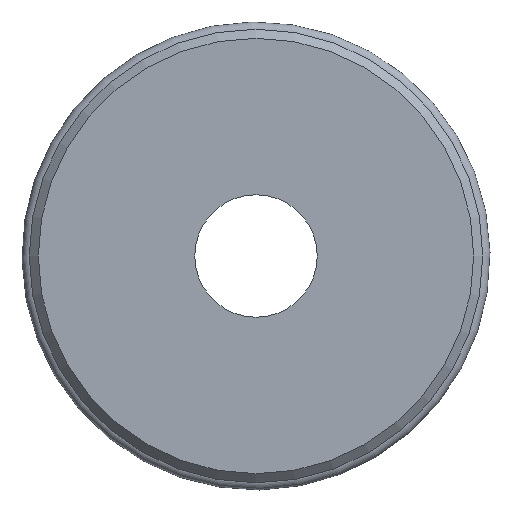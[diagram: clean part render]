
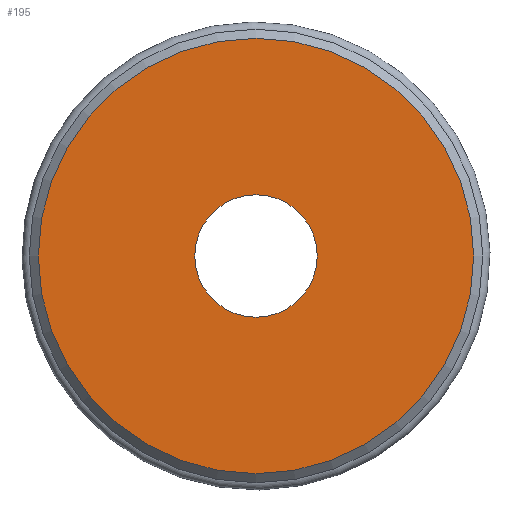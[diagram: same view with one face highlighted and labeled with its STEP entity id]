
A CAD part, front view. The second image highlights one B-rep face of the part: STEP entity #195.
In plain terms, the highlighted planar face has unit normal (0, -1, 0).
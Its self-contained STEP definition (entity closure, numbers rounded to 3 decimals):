
#16=FACE_BOUND('',#42,.T.);
#20=PLANE('',#232);
#30=FACE_OUTER_BOUND('',#41,.T.);
#41=EDGE_LOOP('',(#139));
#42=EDGE_LOOP('',(#140));
#66=CIRCLE('',#226,12.);
#71=CIRCLE('',#233,3.375);
#85=VERTEX_POINT('',#325);
#90=VERTEX_POINT('',#339);
#103=EDGE_CURVE('',#85,#85,#66,.T.);
#110=EDGE_CURVE('',#90,#90,#71,.T.);
#139=ORIENTED_EDGE('',*,*,#103,.F.);
#140=ORIENTED_EDGE('',*,*,#110,.T.);
#195=ADVANCED_FACE('',(#30,#16),#20,.T.);
#226=AXIS2_PLACEMENT_3D('',#326,#259,#260);
#232=AXIS2_PLACEMENT_3D('',#338,#273,#274);
#233=AXIS2_PLACEMENT_3D('',#340,#275,#276);
#259=DIRECTION('center_axis',(0.,1.,0.));
#260=DIRECTION('ref_axis',(-1.,0.,0.));
#273=DIRECTION('center_axis',(0.,-1.,0.));
#274=DIRECTION('ref_axis',(0.,0.,-1.));
#275=DIRECTION('center_axis',(0.,1.,0.));
#276=DIRECTION('ref_axis',(1.,0.,0.));
#325=CARTESIAN_POINT('',(26.058,-16.393,5.302));
#326=CARTESIAN_POINT('Origin',(14.058,-16.393,5.302));
#338=CARTESIAN_POINT('Origin',(14.058,-16.393,5.302));
#339=CARTESIAN_POINT('',(10.683,-16.393,5.302));
#340=CARTESIAN_POINT('Origin',(14.058,-16.393,5.302));
